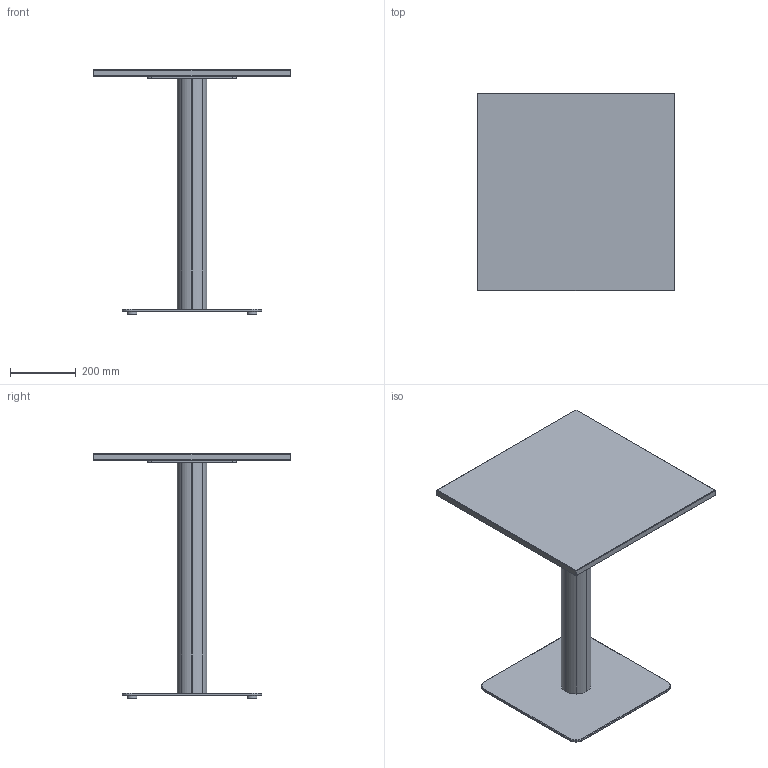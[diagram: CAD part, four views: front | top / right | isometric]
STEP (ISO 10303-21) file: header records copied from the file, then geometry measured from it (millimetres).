
FILE_DESCRIPTION( ('This file contains a STEP AP42 implementation' ,'as created by ZW3D STEP Interface translator.') ,'2;1' );
FILE_NAME( 'Fut - B_Carré - F4 - M1 - 600 x 600 x 750.stp' ,'24 911.1629 8', (''), ('ZWCAD Software Co.'), 'Version 1.0', 'ZW3D to STEP translator', '' );
FILE_SCHEMA(('AUTOMOTIVE_DESIGN { 1 0 10303 214 1 1 1 1 }'));
Length unit declared in the file: millimetre
Products named in the file (15): 0; PIED BISTROT PARAMETRIQUE_; CROIX ACIER 370 V.02_; CRX-X370-02_; SOCLE ACIER L 425x425 V.02_; SCL-R425-02_; PLA-R30A-01_; PLA-R30A-01; COLONNE ACIER Ø48.5 V.02_; TUB-D048-02_; PLA-R48A-01_; COLONNE BOIS PARAMETIQUE_; WUERTH 0276063020 Euro-screw 6.3x2 Verzinkt_; PLATEAU BISTROT PARAMETRIQUE_; insert_m6_13_
Assembly tree (23 placements, depth 3):
  0
  PIED BISTROT PARAMETRIQUE_
    CROIX ACIER 370 V.02_
      CRX-X370-02_
    SOCLE ACIER L 425x425 V.02_
      SCL-R425-02_
      PLA-R30A-01_
      PLA-R30A-01  x3
    COLONNE ACIER Ø48.5 V.02_
      TUB-D048-02_
      PLA-R48A-01_  x2
    COLONNE BOIS PARAMETIQUE_
    WUERTH 0276063020 Euro-screw 6.3x2 Verzinkt_
    PLATEAU BISTROT PARAMETRIQUE_
      insert_m6_13_  x8
Bounding box: 600 x 600 x 744 mm (x, y, z)
Volume: 12146661.3 mm3; surface area: 1927971.7 mm2
Topology: 23 solids, 23 shells, 561 faces, 1358 edges, 846 vertices
Faces by surface type: plane 282, bspline 129, cylinder 104, cone 45, torus 1
Full cylindrical faces by diameter (mm): 4.88 x1, 6 x8, 6.3 x1, 8 x45, 12 x2, 14 x2, 30 x4, 44.5 x3, 48.5 x1
Entity records: 13039 total; most frequent: CARTESIAN_POINT 3561, ORIENTED_EDGE 1722, DIRECTION 1600, EDGE_CURVE 861, VECTOR 558, LINE 558, VERTEX_POINT 548, AXIS2_PLACEMENT_3D 521
